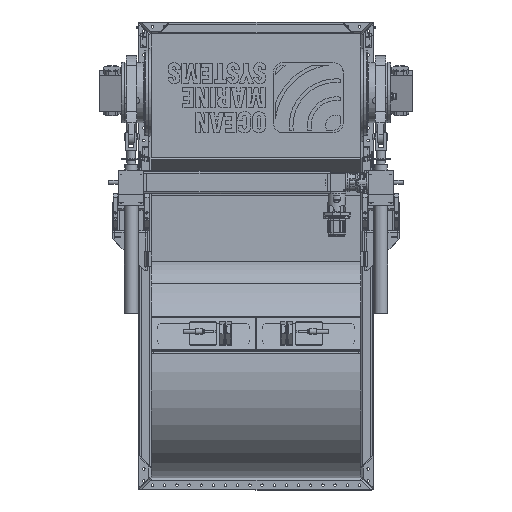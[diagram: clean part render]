
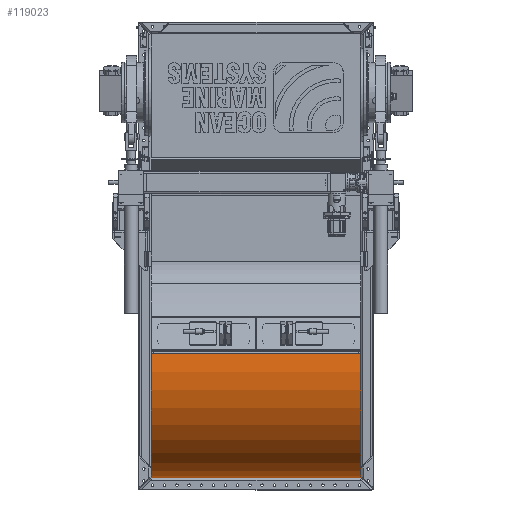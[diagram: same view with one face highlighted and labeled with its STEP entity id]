
A CAD part, top view. The second image highlights one B-rep face of the part: STEP entity #119023.
In plain terms, the highlighted cylindrical face has radius 702 mm (diameter 1404 mm), a partial arc.
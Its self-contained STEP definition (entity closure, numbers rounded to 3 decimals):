
#6238=CYLINDRICAL_SURFACE('',#127105,702.);
#9955=FACE_OUTER_BOUND('',#16802,.T.);
#16802=EDGE_LOOP('',(#86541,#86542,#86543,#86544));
#24591=LINE('',#219142,#34064);
#24592=LINE('',#219146,#34065);
#34064=VECTOR('',#144955,10.);
#34065=VECTOR('',#144958,10.);
#42048=CIRCLE('',#127106,702.);
#42049=CIRCLE('',#127107,702.);
#49273=VERTEX_POINT('',#219140);
#49274=VERTEX_POINT('',#219141);
#49275=VERTEX_POINT('',#219143);
#49276=VERTEX_POINT('',#219145);
#62752=EDGE_CURVE('',#49273,#49274,#24591,.T.);
#62753=EDGE_CURVE('',#49273,#49275,#42048,.T.);
#62754=EDGE_CURVE('',#49276,#49275,#24592,.T.);
#62755=EDGE_CURVE('',#49274,#49276,#42049,.T.);
#86541=ORIENTED_EDGE('',*,*,#62752,.F.);
#86542=ORIENTED_EDGE('',*,*,#62753,.T.);
#86543=ORIENTED_EDGE('',*,*,#62754,.F.);
#86544=ORIENTED_EDGE('',*,*,#62755,.F.);
#119023=ADVANCED_FACE('',(#9955),#6238,.T.);
#127105=AXIS2_PLACEMENT_3D('',#219139,#144953,#144954);
#127106=AXIS2_PLACEMENT_3D('',#219144,#144956,#144957);
#127107=AXIS2_PLACEMENT_3D('',#219147,#144959,#144960);
#144953=DIRECTION('center_axis',(1.,0.,0.));
#144954=DIRECTION('ref_axis',(0.,0.184,0.983));
#144955=DIRECTION('',(1.,0.,0.));
#144956=DIRECTION('center_axis',(1.,0.,0.));
#144957=DIRECTION('ref_axis',(0.,0.184,0.983));
#144958=DIRECTION('',(-1.,0.,0.));
#144959=DIRECTION('center_axis',(1.,0.,0.));
#144960=DIRECTION('ref_axis',(0.,0.184,0.983));
#219139=CARTESIAN_POINT('Origin',(-690.,-259.5,67.5));
#219140=CARTESIAN_POINT('',(-1380.,-143.467,759.844));
#219141=CARTESIAN_POINT('',(0.,-143.467,759.844));
#219142=CARTESIAN_POINT('',(-690.,-143.467,759.844));
#219143=CARTESIAN_POINT('',(-1380.,-961.5,67.5));
#219144=CARTESIAN_POINT('Origin',(-1380.,-259.5,67.5));
#219145=CARTESIAN_POINT('',(0.,-961.5,67.5));
#219146=CARTESIAN_POINT('',(-690.,-961.5,67.5));
#219147=CARTESIAN_POINT('Origin',(0.,-259.5,67.5));
